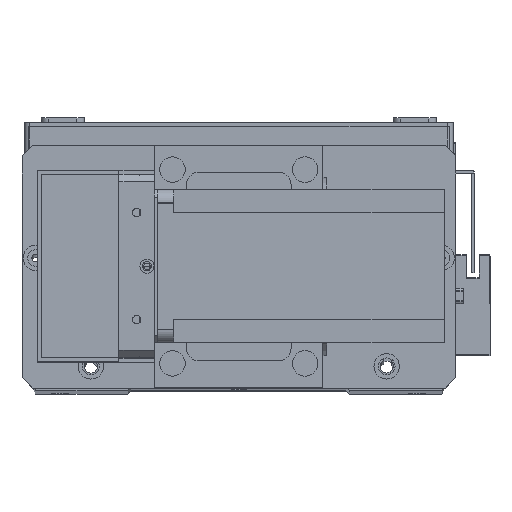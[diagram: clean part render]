
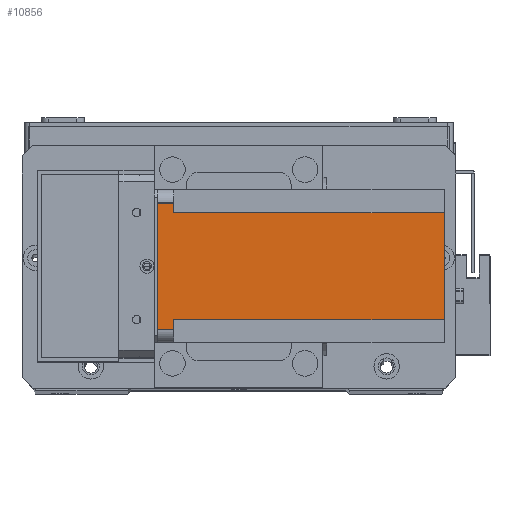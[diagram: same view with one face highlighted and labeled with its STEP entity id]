
A CAD part, top view. The second image highlights one B-rep face of the part: STEP entity #10856.
In plain terms, the highlighted planar face has unit normal (0, 0, 1) as drawn and (-1, 0, 0) by its records, which use the part's own axes.
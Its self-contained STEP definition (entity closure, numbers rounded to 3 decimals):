
#1229 = DIRECTION ( 'NONE',  ( 0., -1., 0. ) ) ;
#2758 = LINE ( 'NONE', #15639, #28391 ) ;
#2799 = CARTESIAN_POINT ( 'NONE',  ( 0., 9., -112.5 ) ) ;
#3608 = PLANE ( 'NONE',  #17049 ) ;
#4702 = VECTOR ( 'NONE', #22808, 1000. ) ;
#5862 = CARTESIAN_POINT ( 'NONE',  ( 0., 55., -6.5 ) ) ;
#5956 = LINE ( 'NONE', #10315, #12354 ) ;
#6207 = VERTEX_POINT ( 'NONE', #30221 ) ;
#6358 = ORIENTED_EDGE ( 'NONE', *, *, #17173, .T. ) ;
#7397 = VECTOR ( 'NONE', #25142, 1000. ) ;
#7755 = LINE ( 'NONE', #22951, #21344 ) ;
#8167 = ORIENTED_EDGE ( 'NONE', *, *, #29036, .F. ) ;
#8449 = DIRECTION ( 'NONE',  ( -1., 0., 0. ) ) ;
#8527 = DIRECTION ( 'NONE',  ( 0., -1., 0. ) ) ;
#8658 = VERTEX_POINT ( 'NONE', #23913 ) ;
#9062 = CARTESIAN_POINT ( 'NONE',  ( 0., 55., -112.5 ) ) ;
#9483 = CARTESIAN_POINT ( 'NONE',  ( 0., 5., -6.5 ) ) ;
#10276 = EDGE_CURVE ( 'NONE', #18481, #8658, #2758, .T. ) ;
#10315 = CARTESIAN_POINT ( 'NONE',  ( 0., 5., -112.5 ) ) ;
#10327 = LINE ( 'NONE', #20382, #4702 ) ;
#10856 = ADVANCED_FACE ( 'NONE', ( #16657 ), #3608, .T. ) ;
#12125 = VERTEX_POINT ( 'NONE', #28384 ) ;
#12354 = VECTOR ( 'NONE', #16831, 1000. ) ;
#12779 = ORIENTED_EDGE ( 'NONE', *, *, #10276, .T. ) ;
#13069 = CARTESIAN_POINT ( 'NONE',  ( 0., 0., -6.5 ) ) ;
#13404 = EDGE_CURVE ( 'NONE', #26368, #20191, #14636, .T. ) ;
#14636 = LINE ( 'NONE', #9062, #25242 ) ;
#14788 = DIRECTION ( 'NONE',  ( 0., 0., -1. ) ) ;
#15249 = LINE ( 'NONE', #28282, #22422 ) ;
#15639 = CARTESIAN_POINT ( 'NONE',  ( 0., 0., -112.5 ) ) ;
#16273 = EDGE_CURVE ( 'NONE', #22221, #20191, #10327, .T. ) ;
#16657 = FACE_OUTER_BOUND ( 'NONE', #24416, .T. ) ;
#16831 = DIRECTION ( 'NONE',  ( 0., 0., 1. ) ) ;
#16879 = LINE ( 'NONE', #2799, #22547 ) ;
#17049 = AXIS2_PLACEMENT_3D ( 'NONE', #22869, #8449, #25325 ) ;
#17173 = EDGE_CURVE ( 'NONE', #30063, #12125, #5956, .T. ) ;
#18120 = EDGE_CURVE ( 'NONE', #30063, #6207, #20216, .T. ) ;
#18481 = VERTEX_POINT ( 'NONE', #25696 ) ;
#20191 = VERTEX_POINT ( 'NONE', #5862 ) ;
#20216 = LINE ( 'NONE', #13069, #7397 ) ;
#20255 = CARTESIAN_POINT ( 'NONE',  ( 0., 55., 0. ) ) ;
#20382 = CARTESIAN_POINT ( 'NONE',  ( 0., 60., -6.5 ) ) ;
#21010 = DIRECTION ( 'NONE',  ( 0., 0., 1. ) ) ;
#21189 = DIRECTION ( 'NONE',  ( 0., 0., -1. ) ) ;
#21344 = VECTOR ( 'NONE', #8527, 1000. ) ;
#21540 = ORIENTED_EDGE ( 'NONE', *, *, #26986, .F. ) ;
#22221 = VERTEX_POINT ( 'NONE', #29027 ) ;
#22422 = VECTOR ( 'NONE', #21010, 1000. ) ;
#22547 = VECTOR ( 'NONE', #14788, 1000. ) ;
#22808 = DIRECTION ( 'NONE',  ( 0., 1., 0. ) ) ;
#22869 = CARTESIAN_POINT ( 'NONE',  ( 0., 0., -112.5 ) ) ;
#22951 = CARTESIAN_POINT ( 'NONE',  ( 0., 0., 0. ) ) ;
#23842 = ORIENTED_EDGE ( 'NONE', *, *, #28284, .F. ) ;
#23913 = CARTESIAN_POINT ( 'NONE',  ( 0., 9., -112.5 ) ) ;
#24416 = EDGE_LOOP ( 'NONE', ( #29815, #6358, #23842, #27144, #25929, #8167, #12779, #21540 ) ) ;
#25142 = DIRECTION ( 'NONE',  ( 0., 1., 0. ) ) ;
#25242 = VECTOR ( 'NONE', #21189, 1000. ) ;
#25325 = DIRECTION ( 'NONE',  ( 0., -1., 0. ) ) ;
#25696 = CARTESIAN_POINT ( 'NONE',  ( 0., 51., -112.5 ) ) ;
#25929 = ORIENTED_EDGE ( 'NONE', *, *, #16273, .F. ) ;
#26368 = VERTEX_POINT ( 'NONE', #20255 ) ;
#26986 = EDGE_CURVE ( 'NONE', #6207, #8658, #16879, .T. ) ;
#27144 = ORIENTED_EDGE ( 'NONE', *, *, #13404, .T. ) ;
#28282 = CARTESIAN_POINT ( 'NONE',  ( 0., 51., -112.5 ) ) ;
#28284 = EDGE_CURVE ( 'NONE', #26368, #12125, #7755, .T. ) ;
#28384 = CARTESIAN_POINT ( 'NONE',  ( 0., 5., 0. ) ) ;
#28391 = VECTOR ( 'NONE', #1229, 1000. ) ;
#29027 = CARTESIAN_POINT ( 'NONE',  ( 0., 51., -6.5 ) ) ;
#29036 = EDGE_CURVE ( 'NONE', #18481, #22221, #15249, .T. ) ;
#29815 = ORIENTED_EDGE ( 'NONE', *, *, #18120, .F. ) ;
#30063 = VERTEX_POINT ( 'NONE', #9483 ) ;
#30221 = CARTESIAN_POINT ( 'NONE',  ( 0., 9., -6.5 ) ) ;
